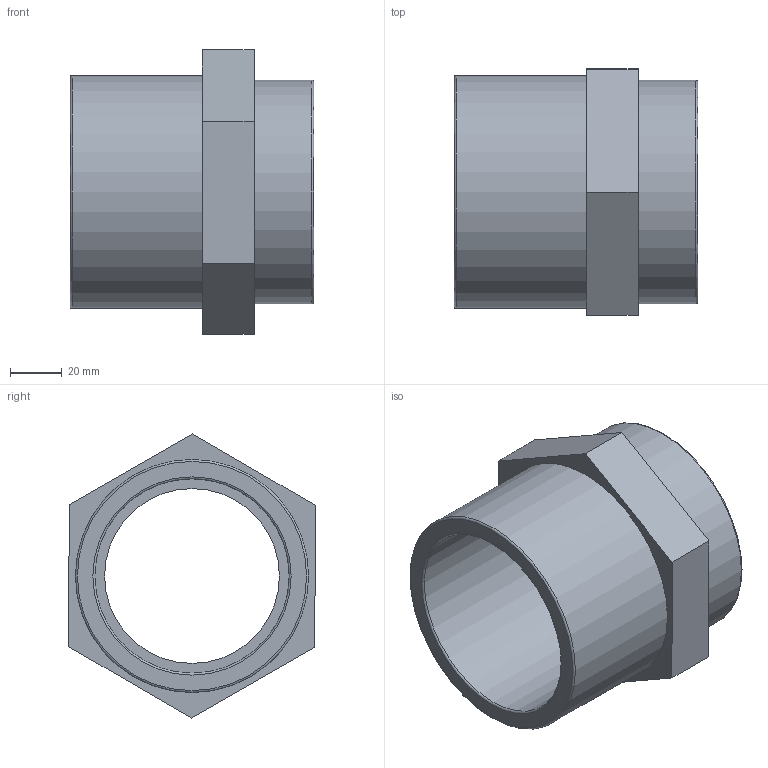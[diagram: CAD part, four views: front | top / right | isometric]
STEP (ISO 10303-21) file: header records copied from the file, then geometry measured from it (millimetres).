
FILE_DESCRIPTION(/* description */ ('PLASSON REDUCER THR-CEM PVC 90(75)2.1/2"F'),/* implementation_level */ '2;1');
FILE_NAME(/* name */ 'C:\Dropbox\KIMPROJECTS-Inventor\99-16-3568-Processing\PVC Catalog 2017\050202\050202090025.ipt.stp',/* time_stamp */ '2017-12-07T15:53:56+02:00',/* author */ ('KIM'),/* organization */ (''),/* preprocessor_version */ 'ST-DEVELOPER v15.6',/* originating_system */ 'Autodesk Inventor 2015',/* authorisation */ '');
FILE_SCHEMA (('AUTOMOTIVE_DESIGN { 1 0 10303 214 3 1 1 }'));
Length unit declared in the file: millimetre
Products named in the file (1): 050202090025
Bounding box: 94 x 95.15 x 109.7 mm (x, y, z)
Volume: 213914.6 mm3; surface area: 57140.4 mm2
Topology: 1 solids, 1 shells, 21 faces, 41 edges, 26 vertices
Faces by surface type: plane 12, cylinder 5, torus 4
Full cylindrical faces by diameter (mm): 67.5 x1, 72.226 x1, 75 x1, 86.25 x1, 90 x1
Entity records: 520 total; most frequent: DIRECTION 90, CARTESIAN_POINT 80, ORIENTED_EDGE 64, EDGE_LOOP 36, AXIS2_PLACEMENT_3D 36, EDGE_CURVE 32, VERTEX_POINT 26, FACE_OUTER_BOUND 21
